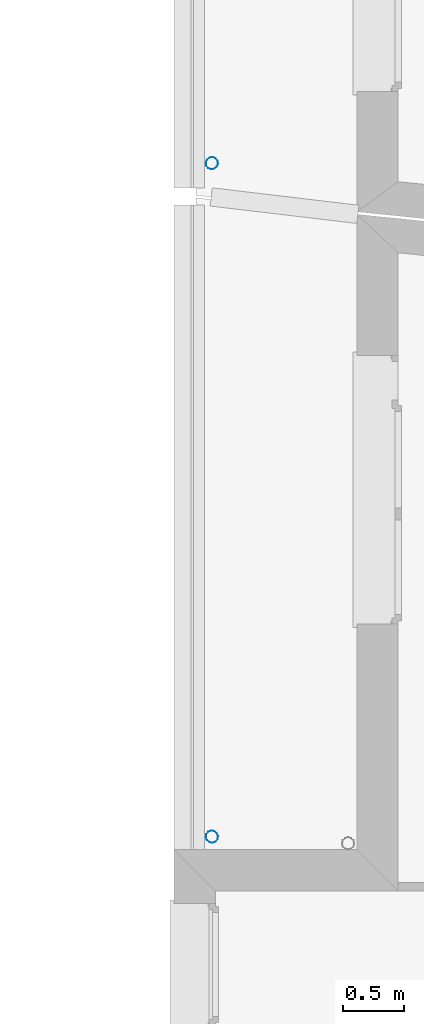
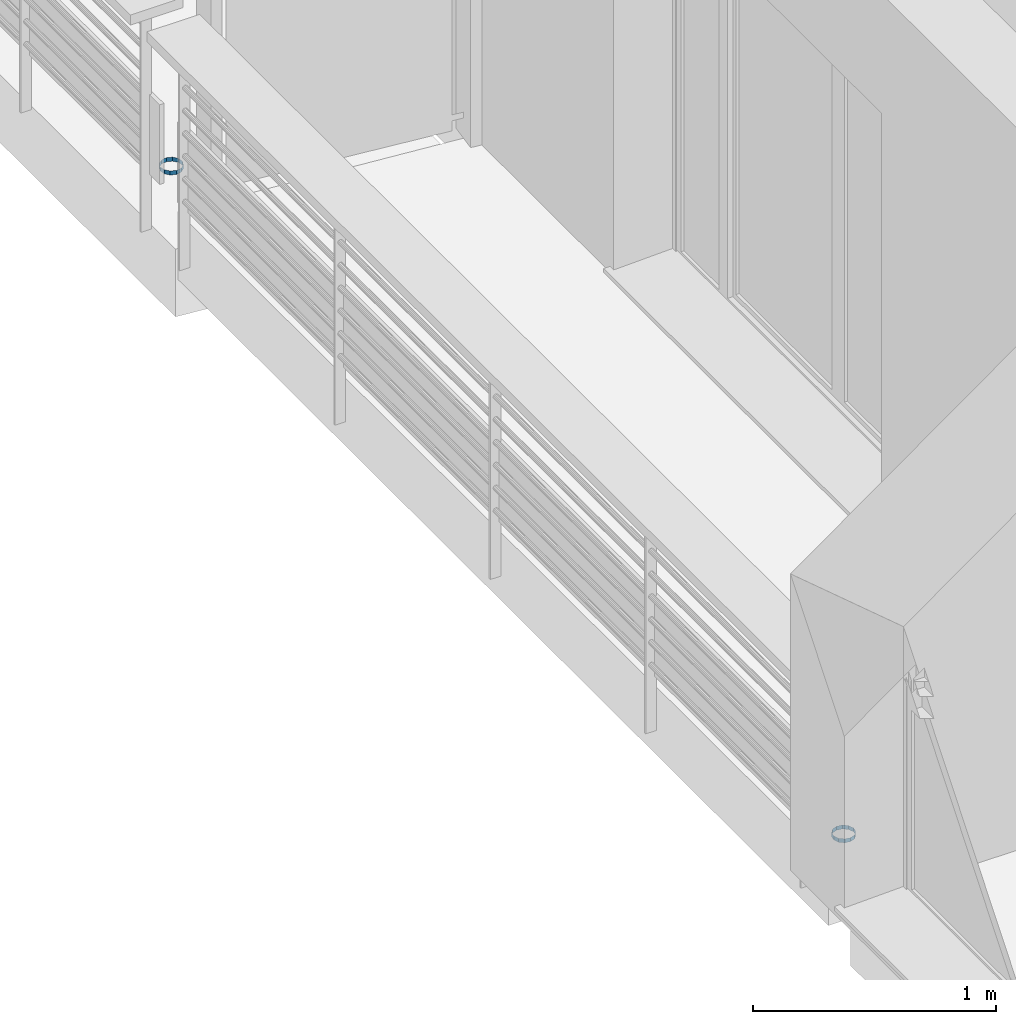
# One storey, part 103 of 171: 2 discrete accessories.
"""IFC2X3 building model written with IfcOpenShell, lengths in millimetres."""

from ifc_helpers import new_model, entity, si_unit, converted_unit, derived_unit, money_unit, direction, frame, origin_with_axes, place, context, subcontext, project, spatial, open_shell, surface_model, source, transform, mapped, type_object, element, save


model = new_model("IFC2X3")

# Units and contexts
model_context = context("Model", 3, precision=0.01, world=origin_with_axes(), true_north=direction((0.0, 1.0)))
body_context = subcontext(model_context, "Body", "Model", "MODEL_VIEW")
ifc_project = project(units=[si_unit("LENGTHUNIT", "METRE", prefix="MILLI"), si_unit("AREAUNIT", "SQUARE_METRE"), si_unit("VOLUMEUNIT", "CUBIC_METRE"), converted_unit("PLANEANGLEUNIT", "DEGREE", entity("IfcPlaneAngleMeasure", 0.0174532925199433), si_unit("PLANEANGLEUNIT", "RADIAN"), dimensions=[0, 0, 0, 0, 0, 0, 0]), money_unit("USD"), converted_unit("TIMEUNIT", "Year", entity("IfcTimeMeasure", 31557600.0), si_unit("TIMEUNIT", "SECOND"), dimensions=[0, 0, 1, 0, 0, 0, 0]), si_unit("MASSUNIT", "GRAM", prefix="KILO"), si_unit("THERMODYNAMICTEMPERATUREUNIT", "DEGREE_CELSIUS"), si_unit("LUMINOUSINTENSITYUNIT", "LUMEN"), si_unit("ENERGYUNIT", "JOULE", prefix="MEGA"), derived_unit("THERMALCONDUCTANCEUNIT", [(si_unit("POWERUNIT", "WATT"), 1), (si_unit("LENGTHUNIT", "METRE"), -1), (si_unit("THERMODYNAMICTEMPERATUREUNIT", "KELVIN"), -1)]), derived_unit("SPECIFICHEATCAPACITYUNIT", [(si_unit("ENERGYUNIT", "JOULE"), 1), (si_unit("MASSUNIT", "GRAM", prefix="KILO"), -1), (si_unit("THERMODYNAMICTEMPERATUREUNIT", "KELVIN"), -1)]), derived_unit("MASSDENSITYUNIT", [(si_unit("MASSUNIT", "GRAM", prefix="KILO"), 1), (si_unit("VOLUMEUNIT", "CUBIC_METRE"), -1)])], contexts=[model_context])

# Site, building, storey
site_placement = place(None, origin_with_axes())
site = spatial("IfcSite", under=ifc_project, at=site_placement, Name="Site", CompositionType="ELEMENT")
building_placement = place(site_placement, origin_with_axes())
building = spatial("IfcBuilding", under=site, at=building_placement, Name="Bâtiment", CompositionType="ELEMENT")
storey_placement = place(building_placement, frame((0.0, 0.0, 3000.0), z_axis=(0.0, 0.0, 1.0), x_axis=(1.0, 0.0, 0.0)))
storey = spatial("IfcBuildingStorey", under=building, at=storey_placement, Name="rdc", CompositionType="ELEMENT", Elevation=3000.0)

# Discrete accessories
discrete_accessory_type = type_object("IfcDiscreteAccessoryType", Name="Tuyau descente 27")
shared_shape_1 = source(origin_with_axes(), body_context, "Body", "SurfaceModel", [
    surface_model("IfcShellBasedSurfaceModel", [(-50.0, 0.0, 20.0), (-50.0, 0.0, 0.0), (-43.30127018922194, -25.0, 0.0), (-43.30127018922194, -25.0, 20.0), (-43.30127018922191, 25.00000000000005, 20.0), (-43.30127018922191, 25.00000000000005, 0.0), (-25.00000000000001, -43.30127018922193, 0.0), (-25.00000000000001, -43.30127018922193, 20.0), (-24.99999999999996, 43.30127018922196, 20.0), (-24.99999999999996, 43.30127018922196, 0.0), (0.0, -50.0, 0.0), (0.0, -50.0, 20.0), (0.0, 50.0, 20.0), (0.0, 50.0, 0.0), (24.99999999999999, -43.30127018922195, 0.0), (24.99999999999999, -43.30127018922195, 20.0), (25.00000000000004, 43.30127018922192, 20.0), (25.00000000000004, 43.30127018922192, 0.0), (43.30127018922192, -25.00000000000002, 0.0), (43.30127018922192, -25.00000000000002, 20.0), (43.30127018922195, 24.99999999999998, 20.0), (43.30127018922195, 24.99999999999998, 0.0), (50.0, 0.0, 0.0), (50.0, 0.0, 20.0)], [open_shell([[[0, 1, 2, 3]], [[4, 5, 1, 0]], [[3, 2, 6, 7]], [[8, 9, 5, 4]], [[7, 6, 10, 11]], [[12, 13, 9, 8]], [[11, 10, 14, 15]], [[16, 17, 13, 12]], [[15, 14, 18, 19]], [[20, 21, 17, 16]], [[19, 18, 22, 23]], [[23, 22, 21, 20]]])]),
])
discrete_accessory_1_placement = place(storey_placement, frame((2216947.023107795, -620443.1192585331, 0.0), z_axis=(0.0, 0.0, 1.0), x_axis=(-0.9948759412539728, 0.1011032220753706, 0.0)))
element("IfcDiscreteAccessory", 1, at=discrete_accessory_1_placement, inside=storey, type_object=discrete_accessory_type, Name="Obj.-318", context=body_context, shape_type="MappedRepresentation", body=[
    mapped(shared_shape_1, transform((0.0, 0.0, 0.0))),
])
shared_shape_2 = source(origin_with_axes(), body_context, "Body", "SurfaceModel", [
    surface_model("IfcShellBasedSurfaceModel", [(50.0, 0.0, 20.0), (43.30127018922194, -25.0, 20.0), (43.30127018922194, -25.0, 0.0), (50.0, 0.0, 0.0), (25.00000000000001, -43.30127018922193, 20.0), (25.00000000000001, -43.30127018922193, 0.0), (43.30127018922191, 25.00000000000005, 20.0), (43.30127018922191, 25.00000000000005, 0.0), (0.0, -50.0, 20.0), (0.0, -50.0, 0.0), (24.99999999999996, 43.30127018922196, 20.0), (24.99999999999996, 43.30127018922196, 0.0), (-24.99999999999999, -43.30127018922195, 20.0), (-24.99999999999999, -43.30127018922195, 0.0), (0.0, 50.0, 20.0), (0.0, 50.0, 0.0), (-43.30127018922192, -25.00000000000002, 20.0), (-43.30127018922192, -25.00000000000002, 0.0), (-25.00000000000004, 43.30127018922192, 20.0), (-25.00000000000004, 43.30127018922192, 0.0), (-50.0, 0.0, 20.0), (-50.0, 0.0, 0.0), (-43.30127018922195, 24.99999999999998, 20.0), (-43.30127018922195, 24.99999999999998, 0.0)], [open_shell([[[0, 1, 2, 3]], [[1, 4, 5, 2]], [[6, 0, 3, 7]], [[4, 8, 9, 5]], [[10, 6, 7, 11]], [[8, 12, 13, 9]], [[14, 10, 11, 15]], [[12, 16, 17, 13]], [[18, 14, 15, 19]], [[16, 20, 21, 17]], [[22, 18, 19, 23]], [[20, 22, 23, 21]]])]),
])
discrete_accessory_2_placement = place(storey_placement, frame((2216947.023107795, -625966.3902546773, 0.0), z_axis=(0.0, 0.0, 1.0), x_axis=(0.9948759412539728, 0.1011032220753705, 0.0)))
element("IfcDiscreteAccessory", 2, at=discrete_accessory_2_placement, inside=storey, type_object=discrete_accessory_type, Name="Obj.-318", context=body_context, shape_type="MappedRepresentation", body=[
    mapped(shared_shape_2, transform((0.0, 0.0, 0.0))),
])

save(model, "model.ifc")
